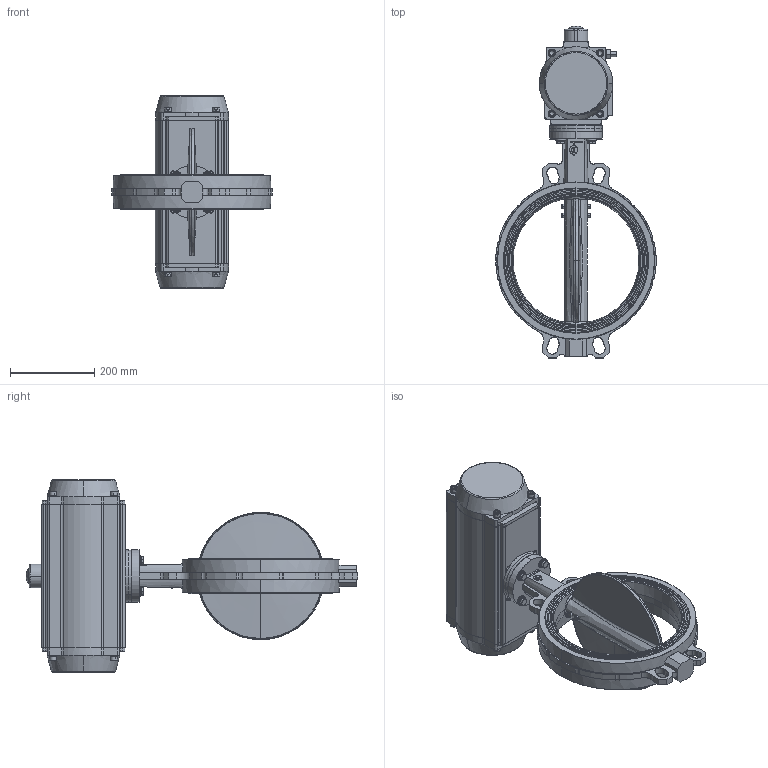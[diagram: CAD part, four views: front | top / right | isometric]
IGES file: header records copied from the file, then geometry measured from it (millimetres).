
Start section: SolidWorks IGES file using analytic representation for surfaces
Global section: file name: H:\BE FABRICATION\BE SERIE\VP\VP SERIE\F072 VPG\plan 3D\VPG-N03\WAFER\DN300\VPG444X-N03XX0300.igs; native system: SolidWorks 2020; preprocessor: SolidWorks 2020; author: k.gigout; date: 220627.174322; units: millimetre
Bounding box: 380 x 786.35 x 456 mm (x, y, z)
Surface area: 976628.3 mm2 (no closed solid volume)
Topology: 0 solids, 0 shells, 760 faces, 21164 edges, 21160 vertices
Faces by surface type: bspline 387, revolution 373
